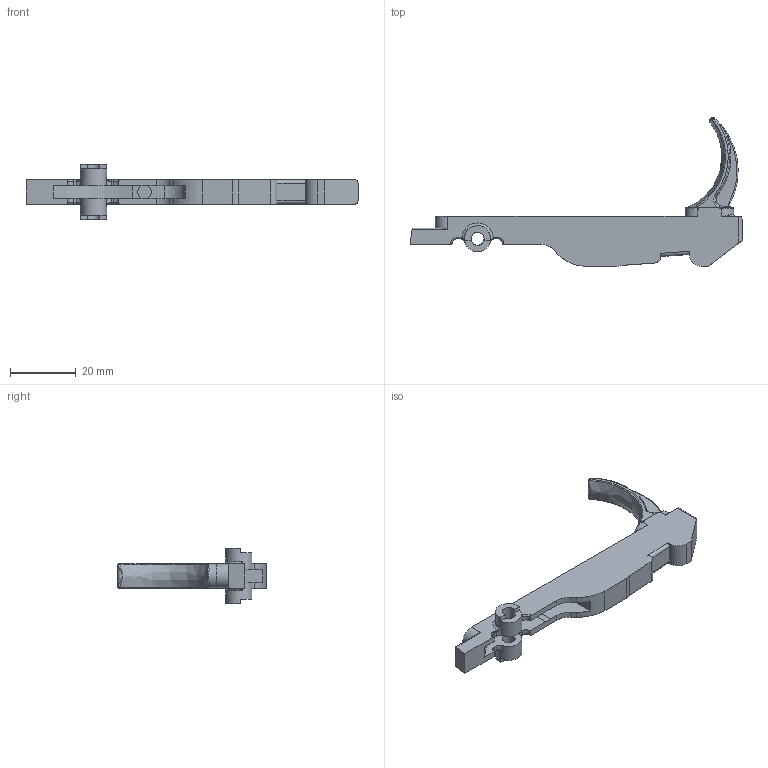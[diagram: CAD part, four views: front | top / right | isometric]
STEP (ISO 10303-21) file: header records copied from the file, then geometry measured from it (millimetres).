
FILE_DESCRIPTION(/* description */ (''),/* implementation_level */ '2;1');
FILE_NAME(/* name */ 'G:/Developer/Repos/Superstar-15/STEPs/Triggers/LongTrigger-Curved.step',/* time_stamp */ '2020-10-31T22:00:35-04:00',/* author */ (''),/* organization */ (''),/* preprocessor_version */ 'ST-DEVELOPER v18.1',/* originating_system */ 'Autodesk Translation Framework v9.3.0.1241',/* authorisation */ '');
FILE_SCHEMA (('AUTOMOTIVE_DESIGN { 1 0 10303 214 3 1 1 }'));
Length unit declared in the file: millimetre
Products named in the file (1): LongTrigger
Bounding box: 101.01 x 45.22 x 16.87 mm (x, y, z)
Volume: 8561.8 mm3; surface area: 5613.1 mm2
Topology: 2 solids, 2 shells, 184 faces, 504 edges, 311 vertices
Faces by surface type: plane 57, cylinder 54, bspline 39, torus 32, sphere 2
Full cylindrical faces by diameter (mm): 3.962 x2, 4.216 x1, 7.986 x2
Entity records: 15941 total; most frequent: CARTESIAN_POINT 11484, ORIENTED_EDGE 986, DIRECTION 884, EDGE_CURVE 493, AXIS2_PLACEMENT_3D 345, VERTEX_POINT 311, LINE 194, VECTOR 194
